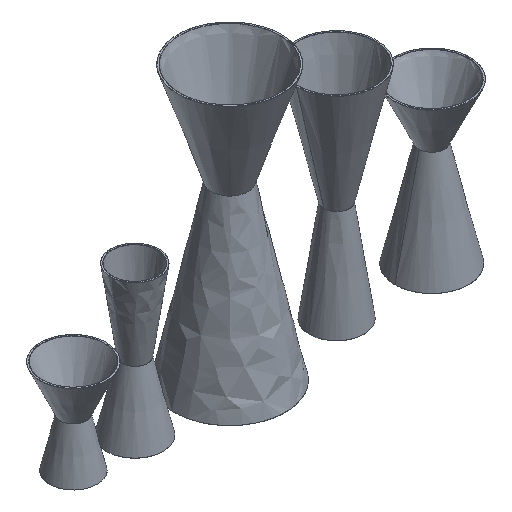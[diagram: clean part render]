
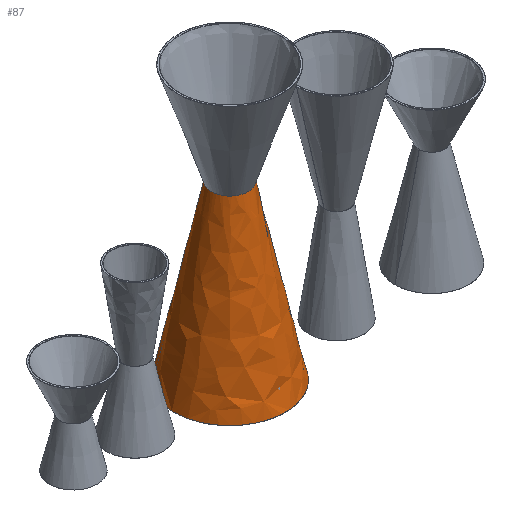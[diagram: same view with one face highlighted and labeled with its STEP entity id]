
A CAD part, isometric view. The second image highlights one B-rep face of the part: STEP entity #87.
In plain terms, the highlighted free-form (B-spline) face has degree [2, 2] with [9, 7] control points.
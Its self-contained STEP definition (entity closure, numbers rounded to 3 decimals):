
#87=ADVANCED_FACE('',(#149),#828,.T.);
#149=FACE_OUTER_BOUND('',#211,.T.);
#211=EDGE_LOOP('',(#334,#335,#336,#337));
#334=ORIENTED_EDGE('',*,*,#531,.F.);
#335=ORIENTED_EDGE('',*,*,#515,.F.);
#336=ORIENTED_EDGE('',*,*,#531,.T.);
#337=ORIENTED_EDGE('',*,*,#530,.F.);
#515=EDGE_CURVE('',#753,#753,#686,.T.);
#530=EDGE_CURVE('',#761,#761,#695,.T.);
#531=EDGE_CURVE('',#753,#761,#696,.T.);
#686=(
BOUNDED_CURVE()
B_SPLINE_CURVE(2,(#3392,#3393,#3394,#3395,#3396,#3397,#3398,#3399,#3400),
 .UNSPECIFIED.,.T.,.F.)
B_SPLINE_CURVE_WITH_KNOTS((3,2,2,2,3),(0.,242.499,484.999,
727.498,969.997),.UNSPECIFIED.)
CURVE()
GEOMETRIC_REPRESENTATION_ITEM()
RATIONAL_B_SPLINE_CURVE((1.,0.707,1.,0.707,1.,0.707,
1.,0.707,1.))
REPRESENTATION_ITEM('')
);
#695=(
BOUNDED_CURVE()
B_SPLINE_CURVE(2,(#3508,#3509,#3510,#3511,#3512,#3513,#3514,#3515,#3516),
 .UNSPECIFIED.,.T.,.F.)
B_SPLINE_CURVE_WITH_KNOTS((3,2,2,2,3),(0.,223.227,446.453,
669.68,892.906),.UNSPECIFIED.)
CURVE()
GEOMETRIC_REPRESENTATION_ITEM()
RATIONAL_B_SPLINE_CURVE((1.,0.707,1.,0.707,1.,0.707,
1.,0.707,1.))
REPRESENTATION_ITEM('')
);
#696=(
BOUNDED_CURVE()
B_SPLINE_CURVE(2,(#3517,#3518,#3519,#3520,#3521),.UNSPECIFIED.,.F.,.F.)
B_SPLINE_CURVE_WITH_KNOTS((3,2,3),(529.892,1019.603,1020.188),
 .UNSPECIFIED.)
CURVE()
GEOMETRIC_REPRESENTATION_ITEM()
RATIONAL_B_SPLINE_CURVE((1.,1.,1.,0.958,1.))
REPRESENTATION_ITEM('')
);
#753=VERTEX_POINT('',#3363);
#761=VERTEX_POINT('',#3371);
#828=(
BOUNDED_SURFACE()
B_SPLINE_SURFACE(2,2,((#3298,#3299,#3300,#3301,#3302,#3303,#3304),(#3305,
#3306,#3307,#3308,#3309,#3310,#3311),(#3312,#3313,#3314,#3315,#3316,#3317,
#3318),(#3319,#3320,#3321,#3322,#3323,#3324,#3325),(#3326,#3327,#3328,#3329,
#3330,#3331,#3332),(#3333,#3334,#3335,#3336,#3337,#3338,#3339),(#3340,#3341,
#3342,#3343,#3344,#3345,#3346),(#3347,#3348,#3349,#3350,#3351,#3352,#3353),
(#3354,#3355,#3356,#3357,#3358,#3359,#3360)),.UNSPECIFIED.,.T.,.F.,.F.)
B_SPLINE_SURFACE_WITH_KNOTS((3,2,2,2,3),(3,2,2,3),(0.,240.794,
481.589,722.383,963.177),(529.272,1019.603,
1020.961,1071.154),.UNSPECIFIED.)
GEOMETRIC_REPRESENTATION_ITEM()
RATIONAL_B_SPLINE_SURFACE(((1.,1.,1.,0.778,1.,1.,1.),(0.707,
0.707,0.707,0.55,0.707,
0.707,0.707),(1.,1.,1.,0.778,1.,1.,
1.),(0.707,0.707,0.707,0.55,
0.707,0.707,0.707),(1.,1.,1.,0.778,
1.,1.,1.),(0.707,0.707,0.707,0.55,
0.707,0.707,0.707),(1.,1.,1.,0.778,
1.,1.,1.),(0.707,0.707,0.707,0.55,
0.707,0.707,0.707),(1.,1.,1.,0.778,
1.,1.,1.)))
REPRESENTATION_ITEM('')
SURFACE()
);
#3298=CARTESIAN_POINT('',(155.,0.,0.));
#3299=CARTESIAN_POINT('',(103.085,0.,239.606));
#3300=CARTESIAN_POINT('',(51.171,0.,479.212));
#3301=CARTESIAN_POINT('',(51.,0.,480.));
#3302=CARTESIAN_POINT('',(50.193,0.,480.));
#3303=CARTESIAN_POINT('',(25.097,0.,480.));
#3304=CARTESIAN_POINT('',(0.,0.,480.));
#3305=CARTESIAN_POINT('',(155.,155.,0.));
#3306=CARTESIAN_POINT('',(103.085,103.085,239.606));
#3307=CARTESIAN_POINT('',(51.171,51.171,479.212));
#3308=CARTESIAN_POINT('',(51.,51.,480.));
#3309=CARTESIAN_POINT('',(50.193,50.193,480.));
#3310=CARTESIAN_POINT('',(25.097,25.097,480.));
#3311=CARTESIAN_POINT('',(0.,0.,480.));
#3312=CARTESIAN_POINT('',(0.,155.,0.));
#3313=CARTESIAN_POINT('',(0.,103.085,239.606));
#3314=CARTESIAN_POINT('',(0.,51.171,479.212));
#3315=CARTESIAN_POINT('',(0.,51.,480.));
#3316=CARTESIAN_POINT('',(0.,50.193,480.));
#3317=CARTESIAN_POINT('',(0.,25.097,480.));
#3318=CARTESIAN_POINT('',(0.,0.,480.));
#3319=CARTESIAN_POINT('',(-155.,155.,0.));
#3320=CARTESIAN_POINT('',(-103.085,103.085,239.606));
#3321=CARTESIAN_POINT('',(-51.171,51.171,479.212));
#3322=CARTESIAN_POINT('',(-51.,51.,480.));
#3323=CARTESIAN_POINT('',(-50.193,50.193,480.));
#3324=CARTESIAN_POINT('',(-25.097,25.097,480.));
#3325=CARTESIAN_POINT('',(0.,0.,480.));
#3326=CARTESIAN_POINT('',(-155.,0.,0.));
#3327=CARTESIAN_POINT('',(-103.085,0.,239.606));
#3328=CARTESIAN_POINT('',(-51.171,0.,479.212));
#3329=CARTESIAN_POINT('',(-51.,0.,480.));
#3330=CARTESIAN_POINT('',(-50.193,0.,480.));
#3331=CARTESIAN_POINT('',(-25.097,0.,480.));
#3332=CARTESIAN_POINT('',(0.,0.,480.));
#3333=CARTESIAN_POINT('',(-155.,-155.,0.));
#3334=CARTESIAN_POINT('',(-103.085,-103.085,239.606));
#3335=CARTESIAN_POINT('',(-51.171,-51.171,479.212));
#3336=CARTESIAN_POINT('',(-51.,-51.,480.));
#3337=CARTESIAN_POINT('',(-50.193,-50.193,480.));
#3338=CARTESIAN_POINT('',(-25.097,-25.097,480.));
#3339=CARTESIAN_POINT('',(0.,0.,480.));
#3340=CARTESIAN_POINT('',(0.,-155.,0.));
#3341=CARTESIAN_POINT('',(0.,-103.085,239.606));
#3342=CARTESIAN_POINT('',(0.,-51.171,479.212));
#3343=CARTESIAN_POINT('',(0.,-51.,480.));
#3344=CARTESIAN_POINT('',(0.,-50.193,480.));
#3345=CARTESIAN_POINT('',(0.,-25.097,480.));
#3346=CARTESIAN_POINT('',(0.,0.,480.));
#3347=CARTESIAN_POINT('',(155.,-155.,0.));
#3348=CARTESIAN_POINT('',(103.085,-103.085,239.606));
#3349=CARTESIAN_POINT('',(51.171,-51.171,479.212));
#3350=CARTESIAN_POINT('',(51.,-51.,480.));
#3351=CARTESIAN_POINT('',(50.193,-50.193,480.));
#3352=CARTESIAN_POINT('',(25.097,-25.097,480.));
#3353=CARTESIAN_POINT('',(0.,0.,480.));
#3354=CARTESIAN_POINT('',(155.,0.,0.));
#3355=CARTESIAN_POINT('',(103.085,0.,239.606));
#3356=CARTESIAN_POINT('',(51.171,0.,479.212));
#3357=CARTESIAN_POINT('',(51.,0.,480.));
#3358=CARTESIAN_POINT('',(50.193,0.,480.));
#3359=CARTESIAN_POINT('',(25.097,0.,480.));
#3360=CARTESIAN_POINT('',(0.,0.,480.));
#3363=CARTESIAN_POINT('',(154.869,0.,0.606));
#3371=CARTESIAN_POINT('',(50.894,0.,479.713));
#3392=CARTESIAN_POINT('',(154.869,0.,0.606));
#3393=CARTESIAN_POINT('',(154.869,-154.869,0.606));
#3394=CARTESIAN_POINT('',(0.,-154.869,0.606));
#3395=CARTESIAN_POINT('',(-154.869,-154.869,0.606));
#3396=CARTESIAN_POINT('',(-154.869,0.,0.606));
#3397=CARTESIAN_POINT('',(-154.869,154.869,0.606));
#3398=CARTESIAN_POINT('',(0.,154.869,0.606));
#3399=CARTESIAN_POINT('',(154.869,154.869,0.606));
#3400=CARTESIAN_POINT('',(154.869,0.,0.606));
#3508=CARTESIAN_POINT('',(50.894,0.,479.713));
#3509=CARTESIAN_POINT('',(50.894,50.894,479.713));
#3510=CARTESIAN_POINT('',(0.,50.894,479.713));
#3511=CARTESIAN_POINT('',(-50.894,50.894,479.713));
#3512=CARTESIAN_POINT('',(-50.894,0.,479.713));
#3513=CARTESIAN_POINT('',(-50.894,-50.894,479.713));
#3514=CARTESIAN_POINT('',(0.,-50.894,479.713));
#3515=CARTESIAN_POINT('',(50.894,-50.894,479.713));
#3516=CARTESIAN_POINT('',(50.894,0.,479.713));
#3517=CARTESIAN_POINT('',(154.869,0.,0.606));
#3518=CARTESIAN_POINT('',(103.02,0.,239.909));
#3519=CARTESIAN_POINT('',(51.171,0.,479.212));
#3520=CARTESIAN_POINT('',(51.107,0.,479.504));
#3521=CARTESIAN_POINT('',(50.894,0.,479.713));
